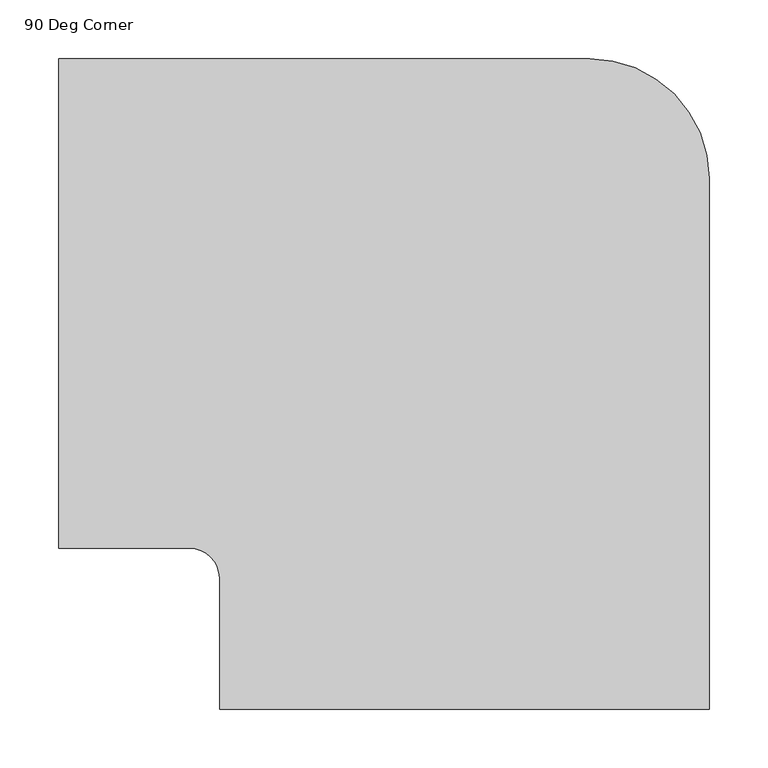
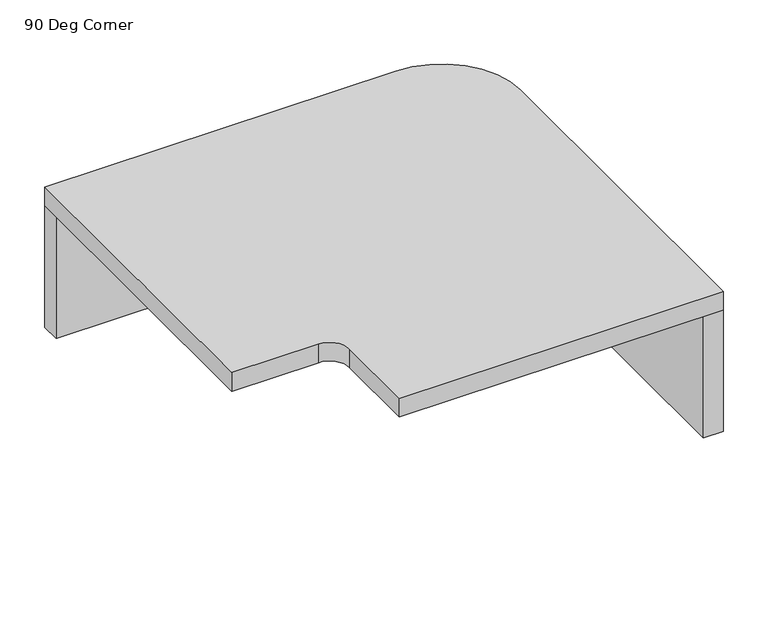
"""IFC4 building model written with IfcOpenShell, lengths in millimetres: furniture geometry, HermanMiller_Ethospace_E2831_SqEdgeCounterTopCorner : 90 Deg Corner."""

import ifcopenshell
import ifcopenshell.guid

model = None  # the IFC model being written
_history = None  # IfcOwnerHistory: only IFC2X3 demands one
_inside = {}  # id of a spatial element -> (the spatial element, [elements in it])
_under = {}  # id of a project, library or spatial element -> (it, [spatial elements below it])
_declared = {}  # id of a project -> (the project, [libraries it declares])
_typed = {}  # id of a type object -> (the type object, [elements of that type])
_made_of = {}  # id of a material, layer set ... -> (it, [elements and type objects made of it])


def new_model(schema):
    """Start an empty IFC model of exactly this schema.

    Asked for "IFC4X3", IfcOpenShell would pick the latest addendum, in which some entities
    have other attributes; the version numbers below select the first issue.
    IFC2X3 requires an IfcOwnerHistory on every rooted entity: one is made here for all.
    """
    global model, _history
    if schema == "IFC4X3":
        model = ifcopenshell.file(schema_version=(4, 3, 0, 0))
    else:
        model = ifcopenshell.file(schema=schema)
    _inside.clear()
    _under.clear()
    _declared.clear()
    _typed.clear()
    _made_of.clear()
    _history = None
    if model.schema == "IFC2X3":
        org = make("IfcOrganization", Name="unknown")
        user = make(
            "IfcPersonAndOrganization",
            ThePerson=make("IfcPerson", FamilyName="unknown"),
            TheOrganization=org,
        )
        app = make(
            "IfcApplication",
            ApplicationDeveloper=org,
            Version="unknown",
            ApplicationFullName="unknown",
            ApplicationIdentifier="unknown",
        )
        _history = make(
            "IfcOwnerHistory",
            OwningUser=user,
            OwningApplication=app,
            ChangeAction="ADDED",
            CreationDate=0,
        )
    return model


def make(cls, **values):
    """One entity of the class cls with the attributes given. An attribute that is None is left unset."""
    return model.create_entity(
        cls, **{name: value for name, value in values.items() if value is not None}
    )


def rooted(cls, **values):
    """An entity with a GlobalId (a new one), such as an element, a storey or a relation."""
    return make(cls, GlobalId=ifcopenshell.guid.new(), OwnerHistory=_history, **values)


def si_unit(unit_type, name, prefix=None):
    """IfcSIUnit, for example si_unit("LENGTHUNIT", "METRE", prefix="MILLI")."""
    return make("IfcSIUnit", UnitType=unit_type, Prefix=prefix, Name=name)


def assignment(units):
    """IfcUnitAssignment: the units of a project."""
    return None if units is None else make("IfcUnitAssignment", Units=units)


def point(xyz):
    """IfcCartesianPoint."""
    return None if xyz is None else make("IfcCartesianPoint", Coordinates=xyz)


def direction(xyz):
    """IfcDirection."""
    return None if xyz is None else make("IfcDirection", DirectionRatios=xyz)


def frame(location, z_axis=None, x_axis=None):
    """IfcAxis2Placement3D, a coordinate frame: its origin and axes. An axis left out is left unset."""
    return make(
        "IfcAxis2Placement3D",
        Location=point(location),
        Axis=direction(z_axis),
        RefDirection=direction(x_axis),
    )


def frame_2d(location, x_axis=None):
    """IfcAxis2Placement2D, a coordinate frame in the plane: its origin and x axis."""
    return make(
        "IfcAxis2Placement2D", Location=point(location), RefDirection=direction(x_axis)
    )


def origin():
    """The frame at (0, 0, 0) with its axes left unset."""
    return frame((0.0, 0.0, 0.0))


def place(relative_to, where):
    """IfcLocalPlacement: puts the frame where relative to a parent placement (None: the world)."""
    return make(
        "IfcLocalPlacement", PlacementRelTo=relative_to, RelativePlacement=where
    )


def context(
    kind, dimensions, precision=None, world=None, true_north=None, identifier=None
):
    """IfcGeometricRepresentationContext, for example the 3D "Model" context."""
    return make(
        "IfcGeometricRepresentationContext",
        ContextIdentifier=identifier,
        ContextType=kind,
        CoordinateSpaceDimension=dimensions,
        Precision=precision,
        WorldCoordinateSystem=world,
        TrueNorth=true_north,
    )


def project(units=None, contexts=None):
    """IfcProject with its units and contexts."""
    return rooted(
        "IfcProject",
        Name="project",
        RepresentationContexts=contexts,
        UnitsInContext=assignment(units),
    )


def spatial(cls, under=None, at=None, **own):
    """A site, building, storey or space (cls), placed at a placement, below another one or the project."""
    s = rooted(cls, ObjectPlacement=at, **own)
    if under is not None:
        _under.setdefault(under.id(), (under, []))[1].append(s)
    return s


def polyline(points):
    """IfcPolyline through the points."""
    return make("IfcPolyline", Points=[point(p) for p in points])


def circle_curve(where, radius):
    """IfcCircle in the frame where."""
    return make("IfcCircle", Position=where, Radius=radius)


def trimmed(basis, trim1, trim2, sense, master):
    """IfcTrimmedCurve: the piece of a basis curve between two trims."""
    return make(
        "IfcTrimmedCurve",
        BasisCurve=basis,
        Trim1=trim1,
        Trim2=trim2,
        SenseAgreement=sense,
        MasterRepresentation=master,
    )


def segment(curve, same_sense, transition):
    """IfcCompositeCurveSegment."""
    return make(
        "IfcCompositeCurveSegment",
        Transition=transition,
        SameSense=same_sense,
        ParentCurve=curve,
    )


def composite_curve(segments, self_intersect=None):
    """IfcCompositeCurve: segments joined end to end."""
    return make("IfcCompositeCurve", Segments=segments, SelfIntersect=self_intersect)


def outline(outer, holes=None, kind="AREA"):
    """IfcArbitraryClosedProfileDef: a profile drawn as a closed curve; with holes, ...WithVoids."""
    if holes is None:
        return make("IfcArbitraryClosedProfileDef", ProfileType=kind, OuterCurve=outer)
    return make(
        "IfcArbitraryProfileDefWithVoids",
        ProfileType=kind,
        OuterCurve=outer,
        InnerCurves=holes,
    )


def extrude(swept, where, along, depth):
    """IfcExtrudedAreaSolid: the profile swept, set in the frame where, extruded along a direction by depth."""
    return make(
        "IfcExtrudedAreaSolid",
        SweptArea=swept,
        Position=where,
        ExtrudedDirection=direction(along),
        Depth=depth,
    )


def shape(context_of_items, identifier, shape_type, items):
    """IfcShapeRepresentation: the items that make up one representation, for example the "Body"."""
    return make(
        "IfcShapeRepresentation",
        ContextOfItems=context_of_items,
        RepresentationIdentifier=identifier,
        RepresentationType=shape_type,
        Items=items,
    )


def source(mapping_origin, context_of_items, identifier, shape_type, items):
    """IfcRepresentationMap: a shape defined once, which mapped items show again and again."""
    return make(
        "IfcRepresentationMap",
        MappingOrigin=mapping_origin,
        MappedRepresentation=shape(context_of_items, identifier, shape_type, items),
    )


def transform(
    local_origin,
    x_axis=None,
    y_axis=None,
    z_axis=None,
    scale=None,
    scale2=None,
    scale3=None,
    uniform=True,
):
    """IfcCartesianTransformationOperator3D, or its non-uniform kind. x_axis, y_axis, z_axis: its Axis1, 2, 3."""
    if uniform:
        return make(
            "IfcCartesianTransformationOperator3D",
            Axis1=direction(x_axis),
            Axis2=direction(y_axis),
            LocalOrigin=point(local_origin),
            Scale=scale,
            Axis3=direction(z_axis),
        )
    return make(
        "IfcCartesianTransformationOperator3DnonUniform",
        Axis1=direction(x_axis),
        Axis2=direction(y_axis),
        LocalOrigin=point(local_origin),
        Scale=scale,
        Axis3=direction(z_axis),
        Scale2=scale2,
        Scale3=scale3,
    )


def mapped(mapping_source, mapping_target):
    """IfcMappedItem: shows the shape of a source again, moved by a transform."""
    return make(
        "IfcMappedItem", MappingSource=mapping_source, MappingTarget=mapping_target
    )


def made_of(thing, what):
    """Note that an element or type object is made of a material, layer set ...; save() writes the relation."""
    if what is not None:
        _made_of.setdefault(what.id(), (what, []))[1].append(thing)
    return thing


def element(
    cls,
    number,
    at=None,
    inside=None,
    cuts=None,
    type_object=None,
    material=None,
    context=None,
    identifier="Body",
    shape_type=None,
    held_by="IfcProductDefinitionShape",
    body=None,
    shapes=None,
    **own,
):
    """One element of the class cls, such as IfcWall. Its Tag is "e" and its number.

    at: its placement. inside: the storey or other place that contains it. cuts: it is an
    opening in that element (IfcRelVoidsElement). A single representation is given by context,
    identifier, shape_type and body (its items); several are given by shapes. held_by: the class
    of the entity that holds the representations. save() writes the other relations.
    """
    e = rooted(cls, Tag="e%d" % number, ObjectPlacement=at, **own)
    if body is not None:
        shapes = [shape(context, identifier, shape_type, body)]
    if shapes is not None:
        e.Representation = make(held_by, Representations=shapes)
    if inside is not None:
        _inside.setdefault(inside.id(), (inside, []))[1].append(e)
    if cuts is not None:
        rooted(
            "IfcRelVoidsElement", RelatingBuildingElement=cuts, RelatedOpeningElement=e
        )
    if type_object is not None:
        _typed.setdefault(type_object.id(), (type_object, []))[1].append(e)
    return made_of(e, material)


def aggregate(whole, parts):
    """IfcRelAggregates: a whole, such as a stair, and the parts it consists of."""
    return rooted("IfcRelAggregates", RelatingObject=whole, RelatedObjects=parts)


def save(model, path):
    """Write the relations noted so far, then the file.

    IfcRelAggregates (storeys below a building ...), IfcRelContainedInSpatialStructure (elements
    in a storey), IfcRelDefinesByType, IfcRelAssociatesMaterial and IfcRelDeclares: one each for
    every whole, place, type object, material and project.
    """
    for whole, parts in _under.values():
        aggregate(whole, parts)
    for where, things in _inside.values():
        rooted(
            "IfcRelContainedInSpatialStructure",
            RelatedElements=things,
            RelatingStructure=where,
        )
    for kind, things in _typed.values():
        rooted("IfcRelDefinesByType", RelatedObjects=things, RelatingType=kind)
    for what, things in _made_of.values():
        rooted("IfcRelAssociatesMaterial", RelatedObjects=things, RelatingMaterial=what)
    for by, libraries in _declared.values():
        rooted("IfcRelDeclares", RelatingContext=by, RelatedDefinitions=libraries)
    model.write(path)


def furniture_90_deg_corner_ab4f0109(model_context):
    return source(origin(), model_context, "Body", "SweptSolid", [
        extrude(outline(composite_curve([segment(polyline([(-212.725, -331.175007), (-212.725, -220.050007)]), True, "CONTINUOUS"), segment(trimmed(circle_curve(frame_2d((-238.125, -220.050007)), 25.4), [point((-212.725, -220.050007))], [point((-238.125, -194.650007))], True, "CARTESIAN"), True, "CONTINUOUS"), segment(polyline([(-238.125, -194.650007), (-349.25, -194.650007), (-349.25, 221.274993), (101.6, 221.274993)]), True, "CONTINUOUS"), segment(trimmed(circle_curve(frame_2d((101.6, 119.674993)), 101.6), [point((101.6, 221.274993))], [point((203.2, 119.674993))], False, "CARTESIAN"), True, "CONTINUOUS"), segment(polyline([(203.2, 119.674993), (203.2, -331.175007), (-212.725, -331.175007)]), True, "CONTINUOUS")], self_intersect=False)), frame((0.0, 0.0, 1054.1), z_axis=(0.0, 0.0, 1.0), x_axis=(1.0, 0.0, 0.0)), (0.0, 0.0, 1.0), 25.4),
        extrude(outline(composite_curve([segment(polyline([(-349.25, 195.874993), (-349.25, 221.274993), (101.6, 221.274993)]), True, "CONTINUOUS"), segment(trimmed(circle_curve(frame_2d((101.6, 119.674993)), 101.6), [point((101.6, 221.274993))], [point((203.2, 119.674993))], False, "CARTESIAN"), True, "CONTINUOUS"), segment(polyline([(203.2, 119.674993), (203.2, -331.175007), (177.8, -331.175007), (177.8, 119.674993)]), True, "CONTINUOUS"), segment(trimmed(circle_curve(frame_2d((101.6, 119.674993)), 76.2), [point((177.8, 119.674993))], [point((101.6, 195.874993))], True, "CARTESIAN"), True, "CONTINUOUS"), segment(polyline([(101.6, 195.874993), (-349.25, 195.874993)]), True, "CONTINUOUS")], self_intersect=False)), frame((0.0, 0.0, 889.0), z_axis=(0.0, 0.0, 1.0), x_axis=(1.0, 0.0, 0.0)), (0.0, 0.0, 1.0), 165.1),
    ])


if __name__ == "__main__":
    model = new_model("IFC4")
    model_context = context("Model", 3, world=origin())
    ifc_project = project(units=[si_unit("LENGTHUNIT", "METRE", prefix="MILLI")], contexts=[model_context])
    site = spatial("IfcSite", under=ifc_project)
    building = spatial("IfcBuilding", under=site)
    placement = place(None, origin())
    furniture_90_deg_corner_shape = furniture_90_deg_corner_ab4f0109(model_context)
    element("IfcFurniture", 1, ObjectType="HermanMiller_Ethospace_E2831_SqEdgeCounterTopCorner : 90 Deg Corner", at=placement, inside=building, context=model_context, shape_type="MappedRepresentation", body=[
        mapped(furniture_90_deg_corner_shape, transform((0.0, 0.0, 0.0), x_axis=(1.0, 0.0, 0.0), y_axis=(0.0, 1.0, 0.0), z_axis=(0.0, 0.0, 1.0))),
    ])
    save(model, "model.ifc")
